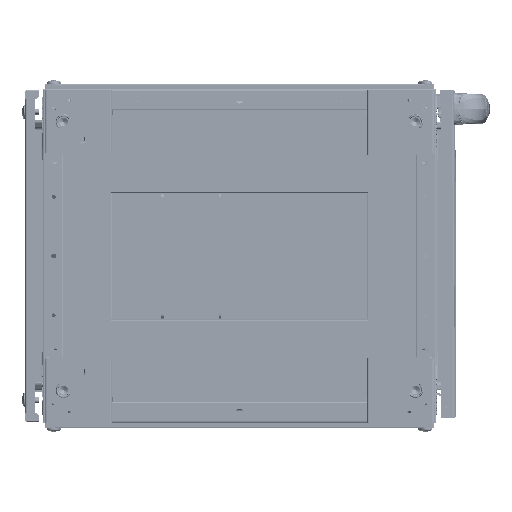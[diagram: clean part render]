
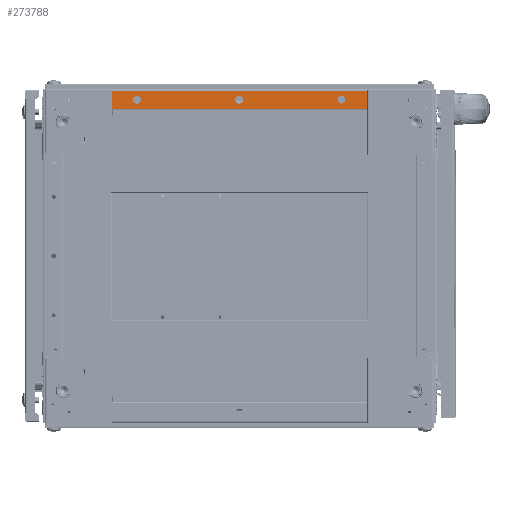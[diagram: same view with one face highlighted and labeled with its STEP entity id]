
A CAD part, front view. The second image highlights one B-rep face of the part: STEP entity #273788.
In plain terms, the highlighted planar face has unit normal (0, -1, 0) as drawn and (0, 0, -1) by its records, which use the part's own axes.
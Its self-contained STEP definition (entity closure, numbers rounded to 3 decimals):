
#507 = CARTESIAN_POINT ( 'NONE',  ( 273.963, 7.36, -98.01 ) ) ;
#12254 = VERTEX_POINT ( 'NONE', #184195 ) ;
#16056 = CARTESIAN_POINT ( 'NONE',  ( 30.037, 16.66, -98.01 ) ) ;
#16820 = VERTEX_POINT ( 'NONE', #419960 ) ;
#17889 = VERTEX_POINT ( 'NONE', #644881 ) ;
#21708 = LINE ( 'NONE', #598287, #170234 ) ;
#22435 = VECTOR ( 'NONE', #315004, 1000. ) ;
#28635 = EDGE_LOOP ( 'NONE', ( #263675, #135838 ) ) ;
#38410 = EDGE_CURVE ( 'NONE', #363628, #573495, #481788, .T. ) ;
#42710 = CIRCLE ( 'NONE', #430868, 4.65 ) ;
#47515 = DIRECTION ( 'NONE',  ( 0., 0., -1. ) ) ;
#49850 = EDGE_CURVE ( 'NONE', #617108, #245931, #453016, .T. ) ;
#58191 = AXIS2_PLACEMENT_3D ( 'NONE', #132381, #298993, #667168 ) ;
#61276 = EDGE_CURVE ( 'NONE', #363628, #448479, #306861, .T. ) ;
#82766 = ORIENTED_EDGE ( 'NONE', *, *, #49850, .F. ) ;
#97150 = EDGE_LOOP ( 'NONE', ( #105350, #188251, #184020, #382599 ) ) ;
#105350 = ORIENTED_EDGE ( 'NONE', *, *, #61276, .F. ) ;
#113556 = DIRECTION ( 'NONE',  ( 0., 1., 0. ) ) ;
#124220 = EDGE_LOOP ( 'NONE', ( #275902, #134974 ) ) ;
#127911 = CARTESIAN_POINT ( 'NONE',  ( 304., 23., -98.01 ) ) ;
#132381 = CARTESIAN_POINT ( 'NONE',  ( 152., 12.01, -98.01 ) ) ;
#133865 = DIRECTION ( 'NONE',  ( 0., -1., 0. ) ) ;
#134974 = ORIENTED_EDGE ( 'NONE', *, *, #242295, .F. ) ;
#135838 = ORIENTED_EDGE ( 'NONE', *, *, #526280, .T. ) ;
#144676 = CARTESIAN_POINT ( 'NONE',  ( 0., 23., -98.01 ) ) ;
#158660 = CARTESIAN_POINT ( 'NONE',  ( 304., 23., -98.01 ) ) ;
#163123 = CARTESIAN_POINT ( 'NONE',  ( 273.963, 12.01, -98.01 ) ) ;
#170234 = VECTOR ( 'NONE', #646963, 1000. ) ;
#172918 = DIRECTION ( 'NONE',  ( 0., -1., 0. ) ) ;
#184020 = ORIENTED_EDGE ( 'NONE', *, *, #594098, .T. ) ;
#184195 = CARTESIAN_POINT ( 'NONE',  ( 30.037, 7.36, -98.01 ) ) ;
#188251 = ORIENTED_EDGE ( 'NONE', *, *, #38410, .T. ) ;
#199116 = ORIENTED_EDGE ( 'NONE', *, *, #425800, .F. ) ;
#203841 = DIRECTION ( 'NONE',  ( 0., 1., 0. ) ) ;
#224380 = DIRECTION ( 'NONE',  ( 0., 0., -1. ) ) ;
#241473 = FACE_BOUND ( 'NONE', #28635, .T. ) ;
#242201 = EDGE_CURVE ( 'NONE', #531551, #448479, #259479, .T. ) ;
#242295 = EDGE_CURVE ( 'NONE', #12254, #531963, #376971, .T. ) ;
#245931 = VERTEX_POINT ( 'NONE', #507 ) ;
#259479 = LINE ( 'NONE', #158660, #22435 ) ;
#263675 = ORIENTED_EDGE ( 'NONE', *, *, #428264, .T. ) ;
#264983 = CARTESIAN_POINT ( 'NONE',  ( 304., 1.51, -98.01 ) ) ;
#273788 = ADVANCED_FACE ( 'NONE', ( #300498, #665226, #241473, #508882 ), #609638, .F. ) ;
#275902 = ORIENTED_EDGE ( 'NONE', *, *, #486954, .F. ) ;
#277571 = AXIS2_PLACEMENT_3D ( 'NONE', #456758, #512331, #133865 ) ;
#286950 = DIRECTION ( 'NONE',  ( 0., 0., -1. ) ) ;
#287366 = CARTESIAN_POINT ( 'NONE',  ( 30.037, 12.01, -98.01 ) ) ;
#298993 = DIRECTION ( 'NONE',  ( 0., 0., 1. ) ) ;
#300498 = FACE_BOUND ( 'NONE', #124220, .T. ) ;
#306861 = LINE ( 'NONE', #264983, #312308 ) ;
#309624 = CARTESIAN_POINT ( 'NONE',  ( 152., 12.01, -98.01 ) ) ;
#312308 = VECTOR ( 'NONE', #466566, 1000. ) ;
#315004 = DIRECTION ( 'NONE',  ( 0., -1., 0. ) ) ;
#325850 = DIRECTION ( 'NONE',  ( 0., 0., -1. ) ) ;
#343739 = AXIS2_PLACEMENT_3D ( 'NONE', #592539, #224380, #498596 ) ;
#363628 = VERTEX_POINT ( 'NONE', #567148 ) ;
#371613 = DIRECTION ( 'NONE',  ( 0., 1., 0. ) ) ;
#376971 = CIRCLE ( 'NONE', #343739, 4.65 ) ;
#377600 = CARTESIAN_POINT ( 'NONE',  ( 0., 23., -98.01 ) ) ;
#382599 = ORIENTED_EDGE ( 'NONE', *, *, #242201, .T. ) ;
#409969 = CARTESIAN_POINT ( 'NONE',  ( 304., 1.51, -98.01 ) ) ;
#419960 = CARTESIAN_POINT ( 'NONE',  ( 156.65, 12.01, -98.01 ) ) ;
#425800 = EDGE_CURVE ( 'NONE', #245931, #617108, #42710, .T. ) ;
#428264 = EDGE_CURVE ( 'NONE', #16820, #17889, #653462, .T. ) ;
#429622 = CIRCLE ( 'NONE', #550082, 4.65 ) ;
#430868 = AXIS2_PLACEMENT_3D ( 'NONE', #634324, #47515, #203841 ) ;
#431815 = VECTOR ( 'NONE', #113556, 1000. ) ;
#448479 = VERTEX_POINT ( 'NONE', #409969 ) ;
#453016 = CIRCLE ( 'NONE', #475400, 4.65 ) ;
#456758 = CARTESIAN_POINT ( 'NONE',  ( 304., 23., -98.01 ) ) ;
#466566 = DIRECTION ( 'NONE',  ( 1., 0., 0. ) ) ;
#475400 = AXIS2_PLACEMENT_3D ( 'NONE', #163123, #286950, #371613 ) ;
#481788 = LINE ( 'NONE', #377600, #431815 ) ;
#486954 = EDGE_CURVE ( 'NONE', #531963, #12254, #429622, .T. ) ;
#489457 = CARTESIAN_POINT ( 'NONE',  ( 273.963, 16.66, -98.01 ) ) ;
#498596 = DIRECTION ( 'NONE',  ( 0., -1., 0. ) ) ;
#508882 = FACE_OUTER_BOUND ( 'NONE', #97150, .T. ) ;
#512331 = DIRECTION ( 'NONE',  ( 0., 0., 1. ) ) ;
#526280 = EDGE_CURVE ( 'NONE', #17889, #16820, #601543, .T. ) ;
#531551 = VERTEX_POINT ( 'NONE', #127911 ) ;
#531963 = VERTEX_POINT ( 'NONE', #16056 ) ;
#542368 = AXIS2_PLACEMENT_3D ( 'NONE', #309624, #589783, #625645 ) ;
#550082 = AXIS2_PLACEMENT_3D ( 'NONE', #287366, #325850, #172918 ) ;
#567148 = CARTESIAN_POINT ( 'NONE',  ( 0., 1.51, -98.01 ) ) ;
#573495 = VERTEX_POINT ( 'NONE', #144676 ) ;
#588091 = EDGE_LOOP ( 'NONE', ( #82766, #199116 ) ) ;
#589783 = DIRECTION ( 'NONE',  ( 0., 0., 1. ) ) ;
#592539 = CARTESIAN_POINT ( 'NONE',  ( 30.037, 12.01, -98.01 ) ) ;
#594098 = EDGE_CURVE ( 'NONE', #573495, #531551, #21708, .T. ) ;
#598287 = CARTESIAN_POINT ( 'NONE',  ( 304., 23., -98.01 ) ) ;
#601543 = CIRCLE ( 'NONE', #58191, 4.65 ) ;
#609638 = PLANE ( 'NONE',  #277571 ) ;
#617108 = VERTEX_POINT ( 'NONE', #489457 ) ;
#625645 = DIRECTION ( 'NONE',  ( 0., -1., 0. ) ) ;
#634324 = CARTESIAN_POINT ( 'NONE',  ( 273.963, 12.01, -98.01 ) ) ;
#644881 = CARTESIAN_POINT ( 'NONE',  ( 147.35, 12.01, -98.01 ) ) ;
#646963 = DIRECTION ( 'NONE',  ( 1., 0., 0. ) ) ;
#653462 = CIRCLE ( 'NONE', #542368, 4.65 ) ;
#665226 = FACE_BOUND ( 'NONE', #588091, .T. ) ;
#667168 = DIRECTION ( 'NONE',  ( 0., -1., 0. ) ) ;
